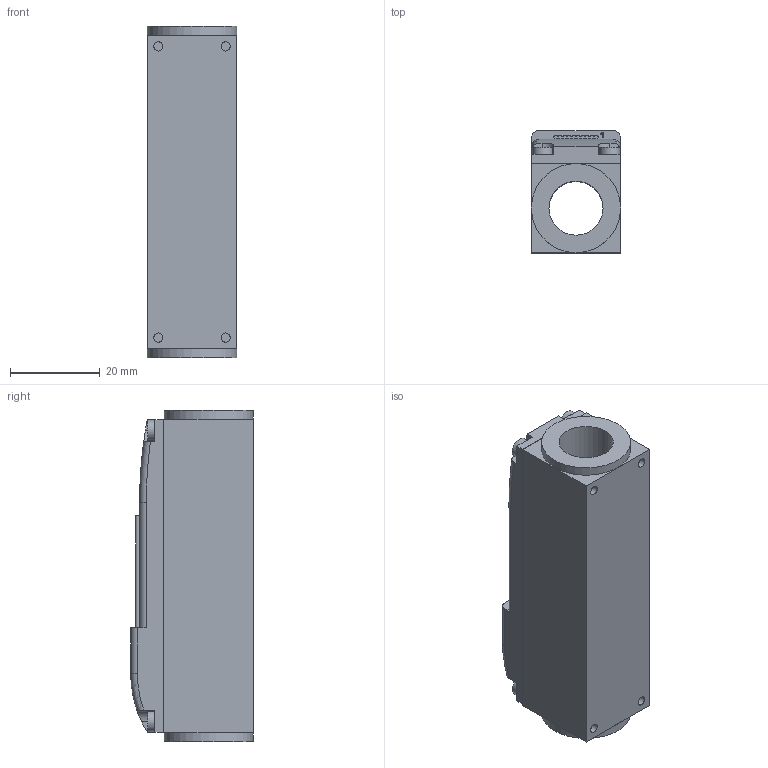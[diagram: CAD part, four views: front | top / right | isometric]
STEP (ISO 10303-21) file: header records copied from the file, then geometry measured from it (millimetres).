
FILE_DESCRIPTION(/* description */ (''),/* implementation_level */ '2;1');
FILE_NAME(/* name */ '2070_1x.stp',/* time_stamp */ '2017-08-29T10:44:16+02:00',/* author */ ('DR. FRITZ FAULHABER GmbH & Co. KG'),/* organization */ ('DR. FRITZ FAULHABER GmbH & Co. KG'),/* preprocessor_version */ 'ST-DEVELOPER v16',/* originating_system */ 'SIEMENS PLM Software NX 10.0',/* authorisation */ '');
FILE_SCHEMA (('AUTOMOTIVE_DESIGN { 1 0 10303 214 3 1 1 1 }'));
Length unit declared in the file: millimetre
Products named in the file (1): Alle_Motoren
Bounding box: 20 x 27.4 x 74 mm (x, y, z)
Volume: 28532.6 mm3; surface area: 10929.8 mm2
Topology: 1 solids, 1 shells, 105 faces, 267 edges, 177 vertices
Faces by surface type: plane 60, cylinder 39, torus 4, extrusion 2
Full cylindrical faces by diameter (mm): 2.05 x4, 4.5 x4, 12.08 x1, 19.9 x2
Entity records: 3273 total; most frequent: CARTESIAN_POINT 711, DIRECTION 525, ORIENTED_EDGE 510, EDGE_CURVE 255, AXIS2_PLACEMENT_3D 186, VERTEX_POINT 176, VECTOR 153, LINE 151
